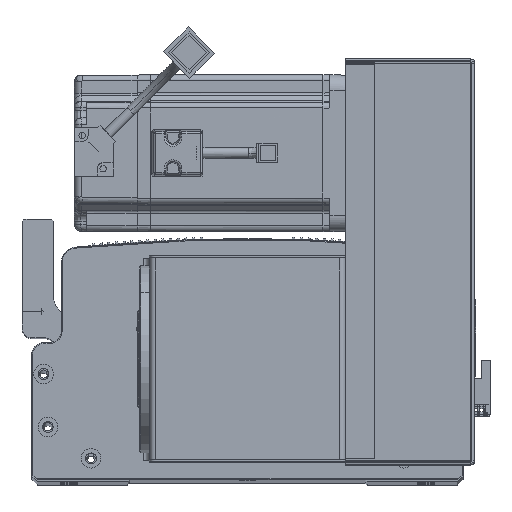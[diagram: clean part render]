
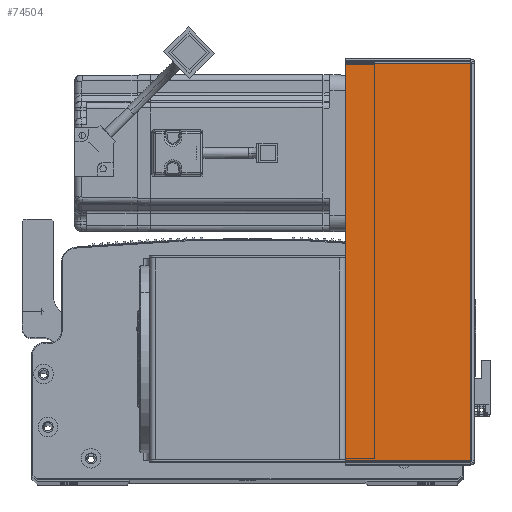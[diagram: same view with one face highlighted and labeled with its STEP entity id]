
A CAD part, top view. The second image highlights one B-rep face of the part: STEP entity #74504.
In plain terms, the highlighted planar face has unit normal (0, 0, 1) as drawn and (0, -1, 0) by its records, which use the part's own axes.
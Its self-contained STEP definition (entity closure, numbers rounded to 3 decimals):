
#1571 = ORIENTED_EDGE ( 'NONE', *, *, #35795, .T. ) ;
#3112 = CARTESIAN_POINT ( 'NONE',  ( 0., -1.5, 0. ) ) ;
#8229 = CARTESIAN_POINT ( 'NONE',  ( 64.5, -1.5, -0.707 ) ) ;
#9320 = CARTESIAN_POINT ( 'NONE',  ( 0., -1.5, -203.293 ) ) ;
#10152 = LINE ( 'NONE', #74462, #62102 ) ;
#11673 = VERTEX_POINT ( 'NONE', #35516 ) ;
#12035 = CARTESIAN_POINT ( 'NONE',  ( 0., -1.5, -0.707 ) ) ;
#13221 = ORIENTED_EDGE ( 'NONE', *, *, #77867, .F. ) ;
#14895 = CARTESIAN_POINT ( 'NONE',  ( 0.737, -1.5, 0. ) ) ;
#15000 = DIRECTION ( 'NONE',  ( 1., 0., 0. ) ) ;
#19996 = EDGE_LOOP ( 'NONE', ( #13221, #1571, #47522, #35436 ) ) ;
#21105 = LINE ( 'NONE', #9320, #27226 ) ;
#27049 = VECTOR ( 'NONE', #64103, 1000. ) ;
#27226 = VECTOR ( 'NONE', #15000, 1000. ) ;
#31767 = CARTESIAN_POINT ( 'NONE',  ( 0.737, -1.5, -203.293 ) ) ;
#32207 = VERTEX_POINT ( 'NONE', #8229 ) ;
#35436 = ORIENTED_EDGE ( 'NONE', *, *, #52896, .F. ) ;
#35516 = CARTESIAN_POINT ( 'NONE',  ( 0.737, -1.5, -0.707 ) ) ;
#35795 = EDGE_CURVE ( 'NONE', #43515, #43135, #21105, .T. ) ;
#36424 = LINE ( 'NONE', #14895, #66987 ) ;
#40104 = CARTESIAN_POINT ( 'NONE',  ( 64.5, -1.5, -203.293 ) ) ;
#42618 = DIRECTION ( 'NONE',  ( 0., 0., 1. ) ) ;
#43135 = VERTEX_POINT ( 'NONE', #40104 ) ;
#43357 = AXIS2_PLACEMENT_3D ( 'NONE', #3112, #81393, #54938 ) ;
#43515 = VERTEX_POINT ( 'NONE', #31767 ) ;
#47465 = LINE ( 'NONE', #12035, #27049 ) ;
#47522 = ORIENTED_EDGE ( 'NONE', *, *, #76580, .T. ) ;
#52896 = EDGE_CURVE ( 'NONE', #11673, #32207, #47465, .T. ) ;
#54441 = DIRECTION ( 'NONE',  ( 0., 0., 1. ) ) ;
#54938 = DIRECTION ( 'NONE',  ( -1., 0., 0. ) ) ;
#61793 = PLANE ( 'NONE',  #43357 ) ;
#62102 = VECTOR ( 'NONE', #42618, 1000. ) ;
#64103 = DIRECTION ( 'NONE',  ( 1., 0., 0. ) ) ;
#66987 = VECTOR ( 'NONE', #54441, 1000. ) ;
#74462 = CARTESIAN_POINT ( 'NONE',  ( 64.5, -1.5, 0. ) ) ;
#74504 = ADVANCED_FACE ( 'NONE', ( #80733 ), #61793, .F. ) ;
#76580 = EDGE_CURVE ( 'NONE', #43135, #32207, #10152, .T. ) ;
#77867 = EDGE_CURVE ( 'NONE', #43515, #11673, #36424, .T. ) ;
#80733 = FACE_OUTER_BOUND ( 'NONE', #19996, .T. ) ;
#81393 = DIRECTION ( 'NONE',  ( 0., 1., 0. ) ) ;
